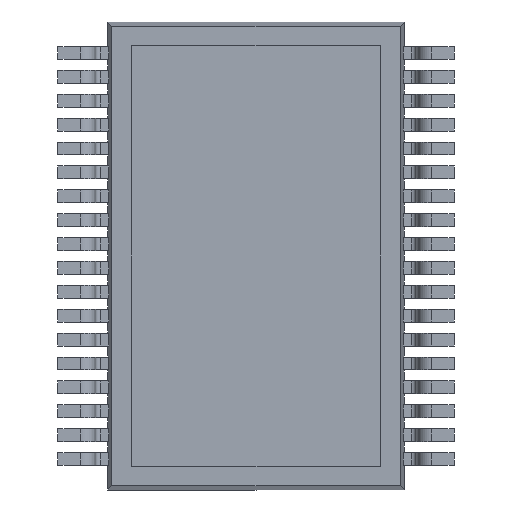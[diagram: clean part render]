
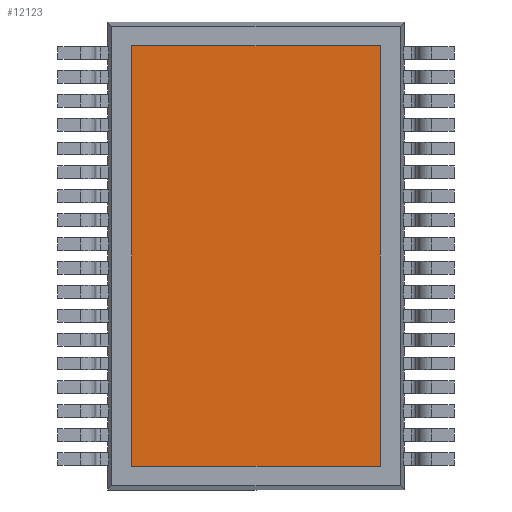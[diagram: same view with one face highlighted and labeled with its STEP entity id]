
A CAD part, front view. The second image highlights one B-rep face of the part: STEP entity #12123.
In plain terms, the highlighted planar face has unit normal (0, -1, 0).
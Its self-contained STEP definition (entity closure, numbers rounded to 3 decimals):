
#130 = VECTOR ( 'NONE', #9203, 1000. ) ;
#132 = LINE ( 'NONE', #9206, #665 ) ;
#159 = LINE ( 'NONE', #9204, #212 ) ;
#212 = VECTOR ( 'NONE', #9209, 1000. ) ;
#470 = LINE ( 'NONE', #9198, #130 ) ;
#643 = LINE ( 'NONE', #9213, #691 ) ;
#665 = VECTOR ( 'NONE', #9212, 1000. ) ;
#691 = VECTOR ( 'NONE', #9215, 1000. ) ;
#1597 = CARTESIAN_POINT ( 'NONE',  ( -2.6, 0., -4.4 ) ) ;
#1677 = CARTESIAN_POINT ( 'NONE',  ( 2.6, 0., -4.4 ) ) ;
#1692 = CARTESIAN_POINT ( 'NONE',  ( 2.6, 0., 4.4 ) ) ;
#1730 = CARTESIAN_POINT ( 'NONE',  ( -2.6, 0., 4.4 ) ) ;
#2125 = PLANE ( 'NONE',  #18046 ) ;
#2144 = CARTESIAN_POINT ( 'NONE',  ( 0., 0., 0. ) ) ;
#2145 = DIRECTION ( 'NONE',  ( 0., 1., 0. ) ) ;
#2146 = DIRECTION ( 'NONE',  ( 0., 0., 1. ) ) ;
#6254 = ORIENTED_EDGE ( 'NONE', *, *, #17881, .T. ) ;
#6256 = ORIENTED_EDGE ( 'NONE', *, *, #17876, .T. ) ;
#6259 = ORIENTED_EDGE ( 'NONE', *, *, #17879, .T. ) ;
#6295 = ORIENTED_EDGE ( 'NONE', *, *, #17882, .T. ) ;
#6416 = VERTEX_POINT ( 'NONE', #1597 ) ;
#6628 = VERTEX_POINT ( 'NONE', #1677 ) ;
#6668 = VERTEX_POINT ( 'NONE', #1692 ) ;
#6762 = VERTEX_POINT ( 'NONE', #1730 ) ;
#9198 = CARTESIAN_POINT ( 'NONE',  ( 2.6, 0., 4.4 ) ) ;
#9203 = DIRECTION ( 'NONE',  ( 0., 0., 1. ) ) ;
#9204 = CARTESIAN_POINT ( 'NONE',  ( -2.6, 0., 4.4 ) ) ;
#9206 = CARTESIAN_POINT ( 'NONE',  ( -2.6, 0., 4.4 ) ) ;
#9209 = DIRECTION ( 'NONE',  ( -1., 0., 0. ) ) ;
#9212 = DIRECTION ( 'NONE',  ( 0., 0., -1. ) ) ;
#9213 = CARTESIAN_POINT ( 'NONE',  ( -2.6, 0., -4.4 ) ) ;
#9215 = DIRECTION ( 'NONE',  ( 1., 0., 0. ) ) ;
#9616 = EDGE_LOOP ( 'NONE', ( #6256, #6259, #6254, #6295 ) ) ;
#12123 = ADVANCED_FACE ( 'NONE', ( #12719 ), #2125, .F. ) ;
#12719 = FACE_OUTER_BOUND ( 'NONE', #9616, .T. ) ;
#17876 = EDGE_CURVE ( 'NONE', #6628, #6668, #470, .T. ) ;
#17879 = EDGE_CURVE ( 'NONE', #6668, #6762, #159, .T. ) ;
#17881 = EDGE_CURVE ( 'NONE', #6762, #6416, #132, .T. ) ;
#17882 = EDGE_CURVE ( 'NONE', #6416, #6628, #643, .T. ) ;
#18046 = AXIS2_PLACEMENT_3D ( 'NONE', #2144, #2145, #2146 ) ;
